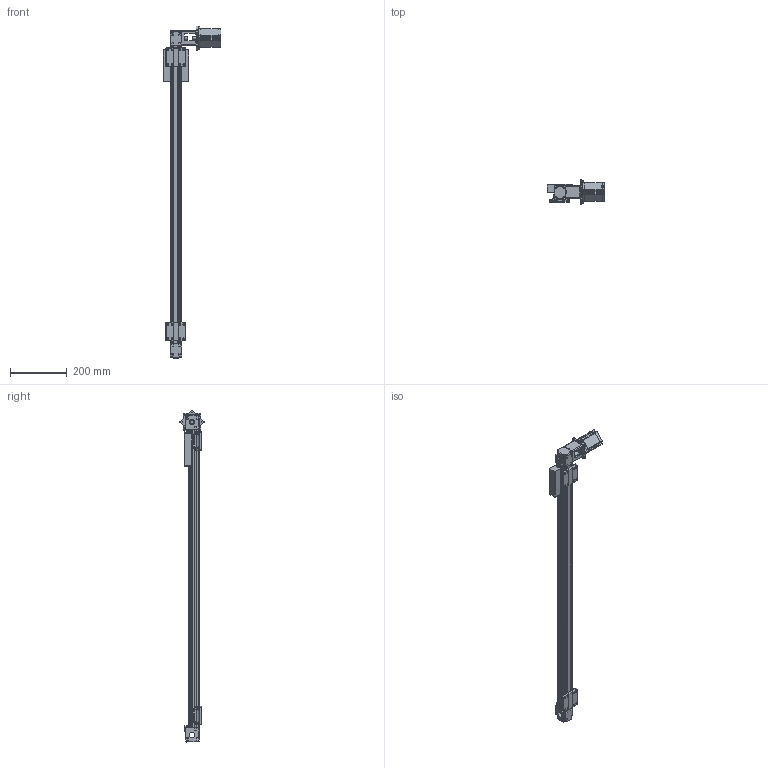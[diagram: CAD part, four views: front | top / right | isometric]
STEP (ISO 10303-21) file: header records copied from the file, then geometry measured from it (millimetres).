
FILE_DESCRIPTION (( 'STEP AP214' ), '1' );
FILE_NAME ('KTK-W40-L75-900-L-57M-E5.STEP', '2020-03-17T03:06:59', ( 'User' ), ( 'china' ), 'SwSTEP 2.0', 'SolidWorks 2014', '' );
FILE_SCHEMA (( 'AUTOMOTIVE_DESIGN' ));
Length unit declared in the file: millimetre
Products named in the file (7): 57HS22; KTK-W40酗粣; KTK-W40萇儂蟀諉璃; KTK-W40嘐隅迖啣; KTK-W40痄雄輸3D; KTK-W40倰第; KTK-W40-L75-900-L-57M-E5
Assembly tree (7 placements, depth 2):
  KTK-W40-L75-900-L-57M-E5
    KTK-W40倰第
    KTK-W40痄雄輸3D
    KTK-W40嘐隅迖啣  x2
    KTK-W40萇儂蟀諉璃
    KTK-W40酗粣
    57HS22
Bounding box: 202.99 x 84.42 x 1167.2 mm (x, y, z)
Volume: 1985436.3 mm3; surface area: 408420.7 mm2
Topology: 11 solids, 11 shells, 1375 faces, 3471 edges, 2120 vertices
Faces by surface type: cylinder 593, plane 372, torus 200, bspline 154, sphere 32, cone 24
Entity records: 42253 total; most frequent: CARTESIAN_POINT 13434, DIRECTION 5923, ORIENTED_EDGE 5914, EDGE_CURVE 2957, AXIS2_PLACEMENT_3D 2239, VERTEX_POINT 1850, VECTOR 1445, LINE 1445
